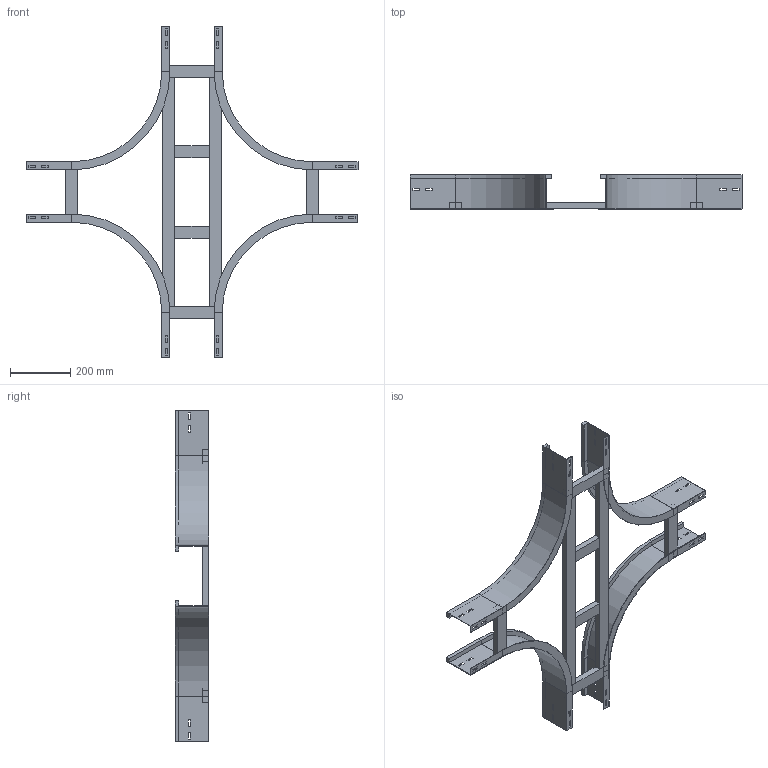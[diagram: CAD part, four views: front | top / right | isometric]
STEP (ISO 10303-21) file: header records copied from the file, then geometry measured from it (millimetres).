
FILE_DESCRIPTION (( 'STEP AP214' ), '1' );
FILE_NAME ('A2_17B3J200.step', '2025-02-21T15:56:35', ( '' ), ( '' ), 'SwSTEP 2.0', 'SolidWorks 2023', '' );
FILE_SCHEMA (( 'AUTOMOTIVE_DESIGN' ));
Length unit declared in the file: millimetre
Products named in the file (5): TRAVERSINO_INTERMEDIO_R300+200; A2_TRAVERSINO_LONG._R300+200; A2_LONGH.INTERNO 90°_H112.5_R300; TRAVERSINO_200; A2_17B3J200
Assembly tree (12 placements, depth 2):
  A2_17B3J200
    A2_LONGH.INTERNO 90°_H112.5_R300  x4
    TRAVERSINO_200  x4
    A2_TRAVERSINO_LONG._R300+200  x2
    TRAVERSINO_INTERMEDIO_R300+200  x2
Bounding box: 1100 x 112.5 x 1100 mm (x, y, z)
Volume: 3500581 mm3; surface area: 1285991.5 mm2
Topology: 12 solids, 12 shells, 280 faces, 704 edges, 448 vertices
Faces by surface type: plane 264, cylinder 16
Entity records: 2442 total; most frequent: CARTESIAN_POINT 399, DIRECTION 378, ORIENTED_EDGE 376, EDGE_CURVE 188, VECTOR 180, LINE 180, VERTEX_POINT 120, AXIS2_PLACEMENT_3D 99
